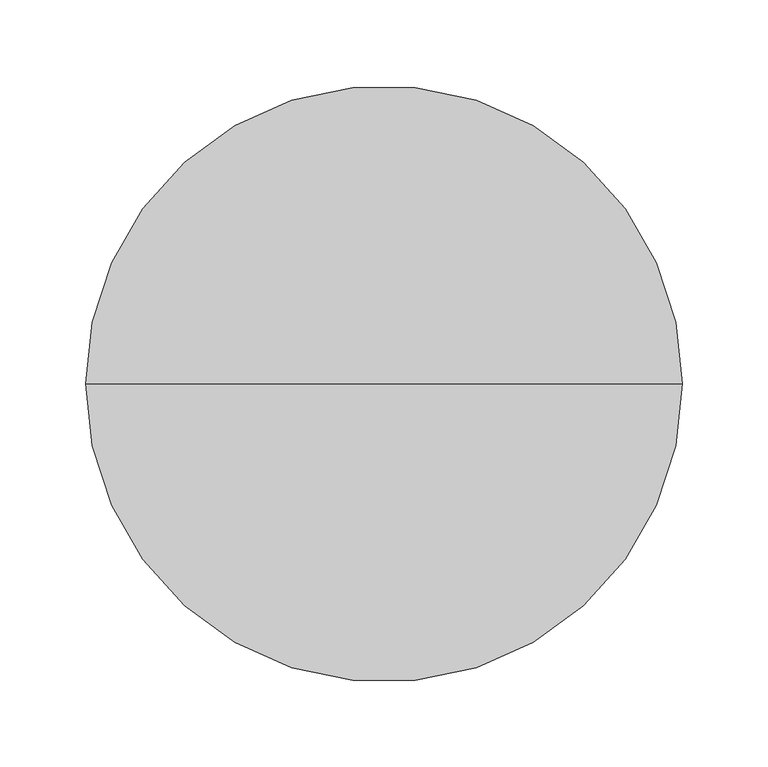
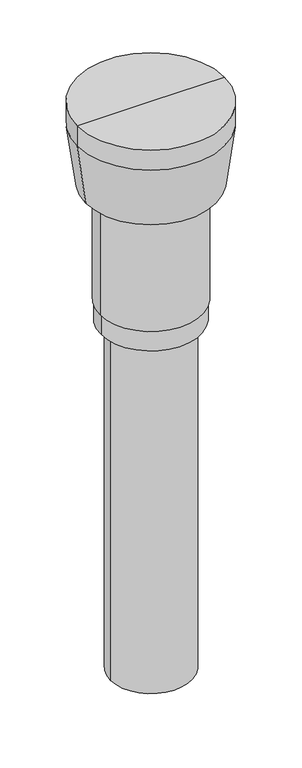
"""IFC4 building model written with IfcOpenShell, lengths in millimetres: air terminal geometry, NLRS_57_AIR_WPB_EASYAIR roof ventilation terminals_M&G : EPS Black, ø160 - L=1410mm."""

from ifc_helpers import new_model, si_unit, frame, origin, place, context, project, spatial, polyline, circle_curve, source, transform, mapped, element, save
from ifc_brep_helpers import plane_surface, cylinder_surface, revolved_surface, advanced_brep


def air_terminal_2ccc4745(model_context):
    return source(origin(), model_context, "Body", "AdvancedBrep", [
        advanced_brep(
        [(95.5, 0.0, -920.0), (-95.5, 0.0, -920.0), (-95.5, 0.0, -50.0), (95.5, 0.0, -50.0), (0.0, 0.0, -920.0), (0.0, 0.0, -50.0)],
        [
            (0, 1, circle_curve(frame((0.0, 0.0, -920.0), z_axis=(0.0, 0.0, 1.0), x_axis=(-1.0, 0.0, 0.0)), 95.5)),
            (1, 2),
            (2, 3, circle_curve(frame((0.0, 0.0, -50.0), z_axis=(0.0, 0.0, -1.0), x_axis=(-1.0, 0.0, 0.0)), 95.5)),
            (3, 0),
            (1, 0, circle_curve(frame((0.0, 0.0, -920.0), z_axis=(0.0, 0.0, 1.0), x_axis=(-1.0, 0.0, 0.0)), 95.5)),
            (3, 2, circle_curve(frame((0.0, 0.0, -50.0), z_axis=(0.0, 0.0, -1.0), x_axis=(-1.0, 0.0, 0.0)), 95.5)),
            (4, 1),
            (0, 4),
            (2, 5),
            (5, 3),
        ],
        [
            cylinder_surface(frame((0.0, 0.0, 2183.3150031), z_axis=(0.0, 0.0, -1.0), x_axis=(-1.0, 0.0, 0.0)), 95.5),
            plane_surface(frame((0.0, 0.0, -920.0), z_axis=(0.0, 0.0, -1.0), x_axis=(-1.0, 0.0, 0.0))),
            plane_surface(frame((0.0, 0.0, -50.0), z_axis=(0.0, 0.0, 1.0), x_axis=(-1.0, 0.0, 0.0))),
        ],
        [
            (0, [[1, 2, 3, 4]]),
            (0, [[5, -4, 6, -2]]),
            (1, [[7, -1, 8]]),
            (1, [[-8, -5, -7]]),
            (2, [[-3, 9, 10]]),
            (2, [[-6, -10, -9]]),
        ],
    ),
        advanced_brep(
        [(173.5, 0.0, 490.0), (-173.5, 0.0, 490.0), (0.0, 0.0, 490.0), (117.5, 0.0, -50.0), (-117.5, 0.0, -50.0), (-117.5, 0.0, 0.0), (117.5, 0.0, 0.0), (0.0, 0.0, -50.0), (173.5, 0.0, 440.0), (-173.5, 0.0, 440.0), (153.5, 0.0, 290.0), (-153.5, 0.0, 290.0), (120.0, 0.0, 0.0), (-120.0, 0.0, 0.0), (-120.0, 0.0, 290.0), (120.0, 0.0, 290.0)],
        [
            (0, 1, circle_curve(frame((0.0, 0.0, 490.0), z_axis=(0.0, 0.0, 1.0), x_axis=(-1.0, 0.0, 0.0)), 173.5)),
            (1, 2),
            (2, 0),
            (1, 0, circle_curve(frame((0.0, 0.0, 490.0), z_axis=(0.0, 0.0, 1.0), x_axis=(-1.0, 0.0, 0.0)), 173.5)),
            (3, 4, circle_curve(frame((0.0, 0.0, -50.0), z_axis=(0.0, 0.0, 1.0), x_axis=(-1.0, 0.0, 0.0)), 117.5)),
            (4, 5),
            (5, 6, circle_curve(frame((0.0, 0.0, 0.0), z_axis=(0.0, 0.0, -1.0), x_axis=(-1.0, 0.0, 0.0)), 117.5)),
            (6, 3),
            (4, 3, circle_curve(frame((0.0, 0.0, -50.0), z_axis=(0.0, 0.0, 1.0), x_axis=(-1.0, 0.0, 0.0)), 117.5)),
            (6, 5, circle_curve(frame((0.0, 0.0, 0.0), z_axis=(0.0, 0.0, -1.0), x_axis=(-1.0, 0.0, 0.0)), 117.5)),
            (7, 4),
            (3, 7),
            (8, 9, circle_curve(frame((0.0, 0.0, 440.0), z_axis=(0.0, 0.0, 1.0), x_axis=(-1.0, 0.0, 0.0)), 173.5)),
            (9, 1),
            (0, 8),
            (9, 8, circle_curve(frame((0.0, 0.0, 440.0), z_axis=(0.0, 0.0, 1.0), x_axis=(-1.0, 0.0, 0.0)), 173.5)),
            (10, 11, circle_curve(frame((0.0, 0.0, 290.0), z_axis=(0.0, 0.0, 1.0), x_axis=(-1.0, 0.0, 0.0)), 153.5)),
            (11, 9),
            (8, 10),
            (11, 10, circle_curve(frame((0.0, 0.0, 290.0), z_axis=(0.0, 0.0, 1.0), x_axis=(-1.0, 0.0, 0.0)), 153.5)),
            (12, 13, circle_curve(frame((0.0, 0.0, 0.0), z_axis=(0.0, 0.0, 1.0), x_axis=(-1.0, 0.0, 0.0)), 120.0)),
            (13, 14),
            (14, 15, circle_curve(frame((0.0, 0.0, 290.0), z_axis=(0.0, 0.0, -1.0), x_axis=(-1.0, 0.0, 0.0)), 120.0)),
            (15, 12),
            (13, 12, circle_curve(frame((0.0, 0.0, 0.0), z_axis=(0.0, 0.0, 1.0), x_axis=(-1.0, 0.0, 0.0)), 120.0)),
            (15, 14, circle_curve(frame((0.0, 0.0, 290.0), z_axis=(0.0, 0.0, -1.0), x_axis=(-1.0, 0.0, 0.0)), 120.0)),
            (5, 13),
            (12, 6),
            (14, 11),
            (10, 15),
        ],
        [
            plane_surface(frame((0.0, 0.0, 490.0), z_axis=(0.0, 0.0, 1.0), x_axis=(-1.0, 0.0, 0.0))),
            cylinder_surface(frame((0.0, 0.0, 2237.3150031), z_axis=(0.0, 0.0, -1.0), x_axis=(-1.0, 0.0, 0.0)), 117.5),
            plane_surface(frame((0.0, 0.0, -50.0), z_axis=(0.0, 0.0, -1.0), x_axis=(-1.0, 0.0, 0.0))),
            cylinder_surface(frame((0.0, 0.0, 2237.3150031), z_axis=(0.0, 0.0, -1.0), x_axis=(-1.0, 0.0, 0.0)), 173.5),
            revolved_surface(polyline([(-173.5, 0.0, 440.0), (-153.5, 0.0, 290.0)]), (0.0, 0.0, 2237.3150031), (0.0, 0.0, -1.0)),
            cylinder_surface(frame((0.0, 0.0, 2237.3150031), z_axis=(0.0, 0.0, -1.0), x_axis=(-1.0, 0.0, 0.0)), 120.0),
            plane_surface(frame((0.0, 0.0, 0.0), z_axis=(0.0, 0.0, -1.0), x_axis=(-1.0, 0.0, 0.0))),
            plane_surface(frame((0.0, 0.0, 290.0), z_axis=(0.0, 0.0, -1.0), x_axis=(-1.0, 0.0, 0.0))),
        ],
        [
            (0, [[1, 2, 3]]),
            (0, [[4, -3, -2]]),
            (1, [[5, 6, 7, 8]]),
            (1, [[9, -8, 10, -6]]),
            (2, [[11, -5, 12]]),
            (2, [[-12, -9, -11]]),
            (3, [[13, 14, -1, 15]]),
            (3, [[16, -15, -4, -14]]),
            (4, [[17, 18, -13, 19]]),
            (4, [[20, -19, -16, -18]]),
            (5, [[21, 22, 23, 24]]),
            (5, [[25, -24, 26, -22]]),
            (6, [[-7, 27, -21, 28]]),
            (6, [[-10, -28, -25, -27]]),
            (7, [[-23, 29, -17, 30]]),
            (7, [[-26, -30, -20, -29]]),
        ],
    ),
    ])


if __name__ == "__main__":
    model = new_model("IFC4")
    model_context = context("Model", 3, world=origin())
    ifc_project = project(units=[si_unit("LENGTHUNIT", "METRE", prefix="MILLI")], contexts=[model_context])
    site = spatial("IfcSite", under=ifc_project)
    building = spatial("IfcBuilding", under=site)
    placement = place(None, origin())
    air_terminal_shape = air_terminal_2ccc4745(model_context)
    element("IfcAirTerminal", 1, ObjectType="NLRS_57_AIR_WPB_EASYAIR roof ventilation terminals_M&G : EPS Black, ø160 - L=1410mm", at=placement, inside=building, context=model_context, shape_type="MappedRepresentation", body=[
        mapped(air_terminal_shape, transform((0.0, 0.0, 0.0), x_axis=(1.0, 0.0, 0.0), y_axis=(0.0, 1.0, 0.0), z_axis=(0.0, 0.0, 1.0))),
    ])
    save(model, "model.ifc")
